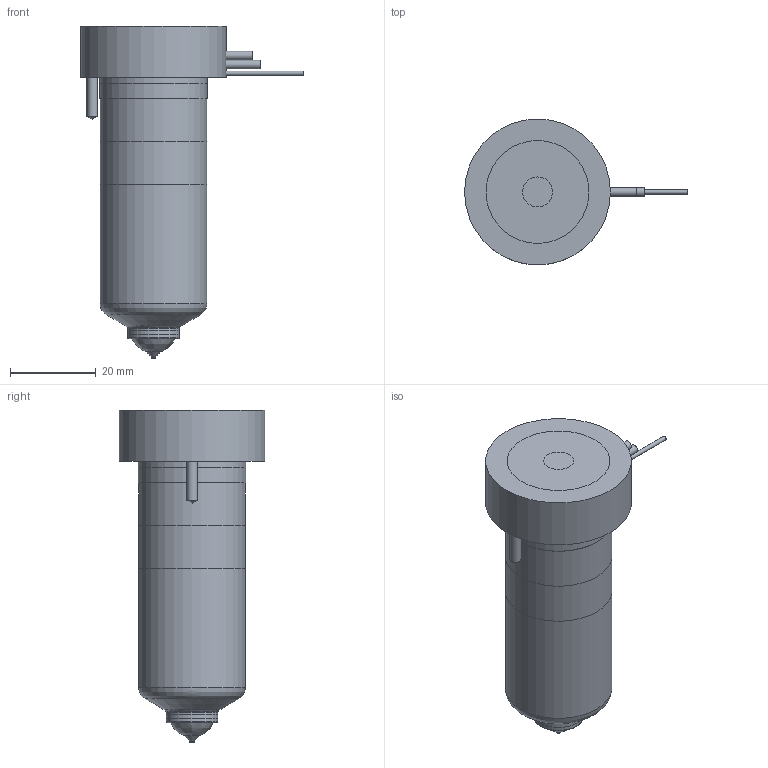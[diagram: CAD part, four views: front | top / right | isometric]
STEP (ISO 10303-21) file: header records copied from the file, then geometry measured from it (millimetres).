
FILE_DESCRIPTION(/* description */ (''),/* implementation_level */ '2;1');
FILE_NAME(/* name */ 'MXOT16065_250C_b',/* time_stamp */ '2007-01-18T09:48:52+13:00',/* author */ (''),/* organization */ (''),/* preprocessor_version */ 'ST-DEVELOPER v9',/* originating_system */ 'UGS - NX 4.0',/* authorisation */ '');
FILE_SCHEMA (('CONFIG_CONTROL_DESIGN'));
Length unit declared in the file: millimetre
Products named in the file (1): MXOT16065_250C_b
Bounding box: 51.95 x 34 x 77.41 mm (x, y, z)
Volume: 70643.5 mm3; surface area: 16805 mm2
Topology: 7 solids, 7 shells, 87 faces, 165 edges, 105 vertices
Faces by surface type: plane 36, cylinder 29, cone 11, torus 8, bspline 3
Full cylindrical faces by diameter (mm): 1 x4, 2 x2, 2.5 x2, 7 x1, 7.8 x1, 8 x1, 11.61 x1, 12.01 x2, 14.8 x1, 20.8 x1, 24.9 x2, 25 x2, 34 x1
Entity records: 2108 total; most frequent: CARTESIAN_POINT 453, DIRECTION 354, ORIENTED_EDGE 230, AXIS2_PLACEMENT_3D 164, EDGE_LOOP 140, EDGE_CURVE 115, VERTEX_POINT 96, ADVANCED_FACE 87
